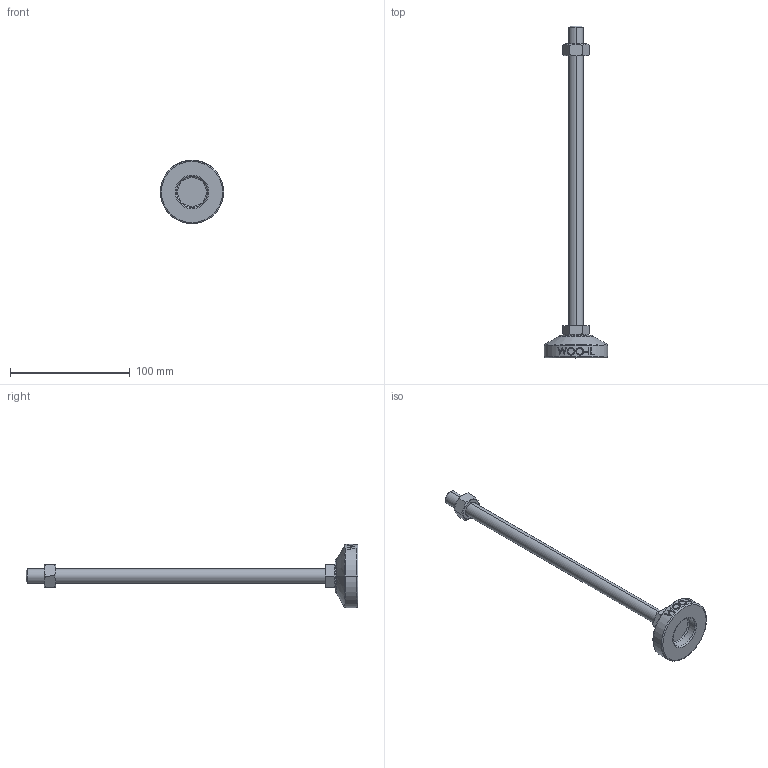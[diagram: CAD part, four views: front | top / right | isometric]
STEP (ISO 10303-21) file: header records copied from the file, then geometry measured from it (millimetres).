
FILE_DESCRIPTION (( 'STEP AP214' ), '1' );
FILE_NAME ('MFZ53-M12-250.step', '2021-01-15T07:03:57', ( '' ), ( '' ), 'SwSTEP 2.0', 'SolidWorks 2019', '' );
FILE_SCHEMA (( 'AUTOMOTIVE_DESIGN' ));
Length unit declared in the file: millimetre
Products named in the file (2): MFZ53-M12-250
Bounding box: 53 x 277 x 53 mm (x, y, z)
Volume: 62768.3 mm3; surface area: 18974.1 mm2
Topology: 3 solids, 3 shells, 106 faces, 243 edges, 154 vertices
Faces by surface type: plane 48, cylinder 18, bspline 16, cone 14, torus 10
Entity records: 4508 total; most frequent: CARTESIAN_POINT 2165, ORIENTED_EDGE 486, DIRECTION 439, EDGE_CURVE 243, AXIS2_PLACEMENT_3D 170, VERTEX_POINT 154, EDGE_LOOP 119, ADVANCED_FACE 106
